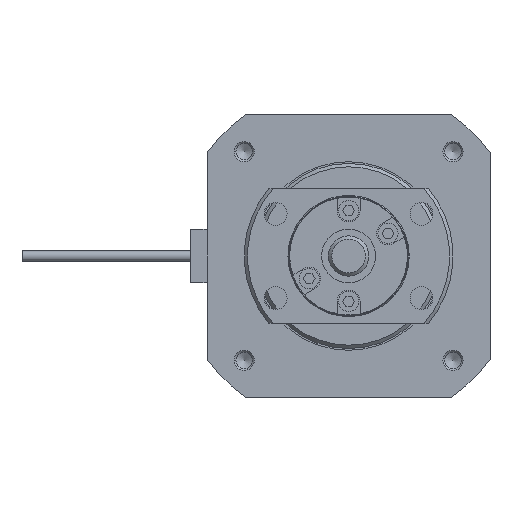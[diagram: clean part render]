
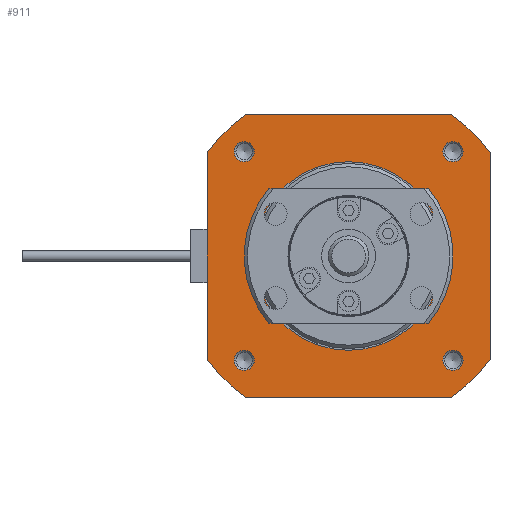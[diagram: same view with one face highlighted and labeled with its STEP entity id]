
A CAD part, left-side view. The second image highlights one B-rep face of the part: STEP entity #911.
In plain terms, the highlighted planar face has unit normal (-1, 0, 0) as drawn and (0, 0, 1) by its records, which use the part's own axes.
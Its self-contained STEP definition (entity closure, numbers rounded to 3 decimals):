
#911 = ADVANCED_FACE( '', ( #1935, #1936, #1937, #1938, #1939, #1940 ), #1941, .F. );
#1935 = FACE_OUTER_BOUND( '', #3106, .T. );
#1936 = FACE_BOUND( '', #3107, .T. );
#1937 = FACE_BOUND( '', #3108, .T. );
#1938 = FACE_BOUND( '', #3109, .T. );
#1939 = FACE_BOUND( '', #3110, .T. );
#1940 = FACE_BOUND( '', #3111, .T. );
#1941 = PLANE( '', #3112 );
#3106 = EDGE_LOOP( '', ( #5598, #5599, #5600, #5601, #5602, #5603, #5604, #5605 ) );
#3107 = EDGE_LOOP( '', ( #5606 ) );
#3108 = EDGE_LOOP( '', ( #5607 ) );
#3109 = EDGE_LOOP( '', ( #5608 ) );
#3110 = EDGE_LOOP( '', ( #5609 ) );
#3111 = EDGE_LOOP( '', ( #5610 ) );
#3112 = AXIS2_PLACEMENT_3D( '', #5611, #5612, #5613 );
#5598 = ORIENTED_EDGE( '', *, *, #6648, .T. );
#5599 = ORIENTED_EDGE( '', *, *, #6854, .F. );
#5600 = ORIENTED_EDGE( '', *, *, #6106, .T. );
#5601 = ORIENTED_EDGE( '', *, *, #6777, .F. );
#5602 = ORIENTED_EDGE( '', *, *, #6780, .T. );
#5603 = ORIENTED_EDGE( '', *, *, #6020, .F. );
#5604 = ORIENTED_EDGE( '', *, *, #6768, .T. );
#5605 = ORIENTED_EDGE( '', *, *, #6966, .F. );
#5606 = ORIENTED_EDGE( '', *, *, #6253, .T. );
#5607 = ORIENTED_EDGE( '', *, *, #6164, .T. );
#5608 = ORIENTED_EDGE( '', *, *, #6848, .T. );
#5609 = ORIENTED_EDGE( '', *, *, #6412, .T. );
#5610 = ORIENTED_EDGE( '', *, *, #6286, .T. );
#5611 = CARTESIAN_POINT( '', ( 0., 14., -192. ) );
#5612 = DIRECTION( '', ( 0., 0., -1. ) );
#5613 = DIRECTION( '', ( -1., 0., 0. ) );
#6020 = EDGE_CURVE( '', #7075, #7071, #7077, .T. );
#6106 = EDGE_CURVE( '', #7229, #7227, #7230, .T. );
#6164 = EDGE_CURVE( '', #7333, #7333, #7334, .T. );
#6253 = EDGE_CURVE( '', #7488, #7488, #7489, .T. );
#6286 = EDGE_CURVE( '', #7545, #7545, #7546, .T. );
#6412 = EDGE_CURVE( '', #7752, #7752, #7753, .T. );
#6648 = EDGE_CURVE( '', #8120, #8118, #8121, .T. );
#6768 = EDGE_CURVE( '', #7075, #8278, #8280, .T. );
#6777 = EDGE_CURVE( '', #8288, #7227, #8290, .T. );
#6780 = EDGE_CURVE( '', #8288, #7071, #8293, .T. );
#6848 = EDGE_CURVE( '', #8382, #8382, #8383, .T. );
#6854 = EDGE_CURVE( '', #7229, #8118, #8389, .T. );
#6966 = EDGE_CURVE( '', #8120, #8278, #8521, .T. );
#7071 = VERTEX_POINT( '', #8637 );
#7075 = VERTEX_POINT( '', #8642 );
#7077 = CIRCLE( '', #8645, 26. );
#7227 = VERTEX_POINT( '', #8917 );
#7229 = VERTEX_POINT( '', #8920 );
#7230 = LINE( '', #8921, #8922 );
#7333 = VERTEX_POINT( '', #9070 );
#7334 = CIRCLE( '', #9071, 1.5 );
#7488 = VERTEX_POINT( '', #9285 );
#7489 = CIRCLE( '', #9286, 1.5 );
#7545 = VERTEX_POINT( '', #9359 );
#7546 = CIRCLE( '', #9360, 14. );
#7752 = VERTEX_POINT( '', #9637 );
#7753 = CIRCLE( '', #9638, 1.5 );
#8118 = VERTEX_POINT( '', #10207 );
#8120 = VERTEX_POINT( '', #10210 );
#8121 = LINE( '', #10211, #10212 );
#8278 = VERTEX_POINT( '', #10478 );
#8280 = LINE( '', #10481, #10482 );
#8288 = VERTEX_POINT( '', #10494 );
#8290 = CIRCLE( '', #10497, 26. );
#8293 = LINE( '', #10501, #10502 );
#8382 = VERTEX_POINT( '', #10635 );
#8383 = CIRCLE( '', #10636, 1.5 );
#8389 = CIRCLE( '', #10644, 26. );
#8521 = CIRCLE( '', #10845, 26. );
#8637 = CARTESIAN_POINT( '', ( 15.33, -21., -192. ) );
#8642 = CARTESIAN_POINT( '', ( 21., -15.33, -192. ) );
#8645 = AXIS2_PLACEMENT_3D( '', #10990, #10991, #10992 );
#8917 = CARTESIAN_POINT( '', ( -21., -15.33, -192. ) );
#8920 = CARTESIAN_POINT( '', ( -21., 15.33, -192. ) );
#8921 = CARTESIAN_POINT( '', ( -21., 21., -192. ) );
#8922 = VECTOR( '', #11071, 1000. );
#9070 = CARTESIAN_POINT( '', ( -17., -15.5, -192. ) );
#9071 = AXIS2_PLACEMENT_3D( '', #11133, #11134, #11135 );
#9285 = CARTESIAN_POINT( '', ( 14., -15.5, -192. ) );
#9286 = AXIS2_PLACEMENT_3D( '', #11240, #11241, #11242 );
#9359 = CARTESIAN_POINT( '', ( -14., 0., -192. ) );
#9360 = AXIS2_PLACEMENT_3D( '', #11281, #11282, #11283 );
#9637 = CARTESIAN_POINT( '', ( -17., 15.5, -192. ) );
#9638 = AXIS2_PLACEMENT_3D( '', #11431, #11432, #11433 );
#10207 = CARTESIAN_POINT( '', ( -15.33, 21., -192. ) );
#10210 = CARTESIAN_POINT( '', ( 15.33, 21., -192. ) );
#10211 = CARTESIAN_POINT( '', ( 21., 21., -192. ) );
#10212 = VECTOR( '', #11668, 1000. );
#10478 = CARTESIAN_POINT( '', ( 21., 15.33, -192. ) );
#10481 = CARTESIAN_POINT( '', ( 21., -21., -192. ) );
#10482 = VECTOR( '', #11763, 1000. );
#10494 = CARTESIAN_POINT( '', ( -15.33, -21., -192. ) );
#10497 = AXIS2_PLACEMENT_3D( '', #11769, #11770, #11771 );
#10501 = CARTESIAN_POINT( '', ( -21., -21., -192. ) );
#10502 = VECTOR( '', #11773, 1000. );
#10635 = CARTESIAN_POINT( '', ( 14., 15.5, -192. ) );
#10636 = AXIS2_PLACEMENT_3D( '', #11828, #11829, #11830 );
#10644 = AXIS2_PLACEMENT_3D( '', #11833, #11834, #11835 );
#10845 = AXIS2_PLACEMENT_3D( '', #11913, #11914, #11915 );
#10990 = CARTESIAN_POINT( '', ( 0., 0., -192. ) );
#10991 = DIRECTION( '', ( 0., 0., -1. ) );
#10992 = DIRECTION( '', ( -1., 0., 0. ) );
#11071 = DIRECTION( '', ( 0., -1., 0. ) );
#11133 = CARTESIAN_POINT( '', ( -15.5, -15.5, -192. ) );
#11134 = DIRECTION( '', ( 0., 0., -1. ) );
#11135 = DIRECTION( '', ( -1., 0., 0. ) );
#11240 = CARTESIAN_POINT( '', ( 15.5, -15.5, -192. ) );
#11241 = DIRECTION( '', ( 0., 0., -1. ) );
#11242 = DIRECTION( '', ( -1., 0., 0. ) );
#11281 = CARTESIAN_POINT( '', ( 0., 0., -192. ) );
#11282 = DIRECTION( '', ( 0., 0., -1. ) );
#11283 = DIRECTION( '', ( -1., 0., 0. ) );
#11431 = CARTESIAN_POINT( '', ( -15.5, 15.5, -192. ) );
#11432 = DIRECTION( '', ( 0., 0., -1. ) );
#11433 = DIRECTION( '', ( -1., 0., 0. ) );
#11668 = DIRECTION( '', ( -1., 0., 0. ) );
#11763 = DIRECTION( '', ( 0., 1., 0. ) );
#11769 = CARTESIAN_POINT( '', ( 0., 0., -192. ) );
#11770 = DIRECTION( '', ( 0., 0., -1. ) );
#11771 = DIRECTION( '', ( -1., 0., 0. ) );
#11773 = DIRECTION( '', ( 1., 0., 0. ) );
#11828 = CARTESIAN_POINT( '', ( 15.5, 15.5, -192. ) );
#11829 = DIRECTION( '', ( 0., 0., -1. ) );
#11830 = DIRECTION( '', ( -1., 0., 0. ) );
#11833 = CARTESIAN_POINT( '', ( 0., 0., -192. ) );
#11834 = DIRECTION( '', ( 0., 0., -1. ) );
#11835 = DIRECTION( '', ( -1., 0., 0. ) );
#11913 = CARTESIAN_POINT( '', ( 0., 0., -192. ) );
#11914 = DIRECTION( '', ( 0., 0., -1. ) );
#11915 = DIRECTION( '', ( -1., 0., 0. ) );
